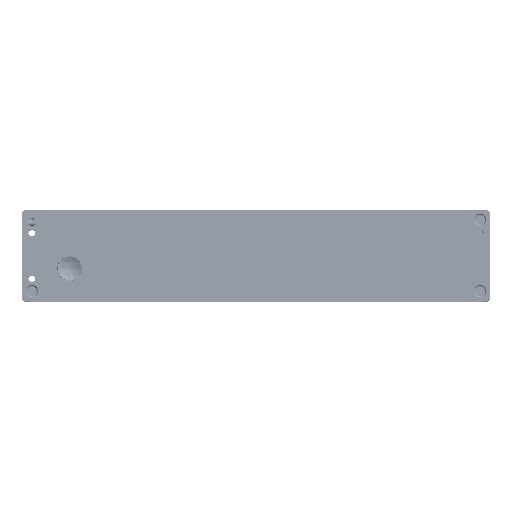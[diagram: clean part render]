
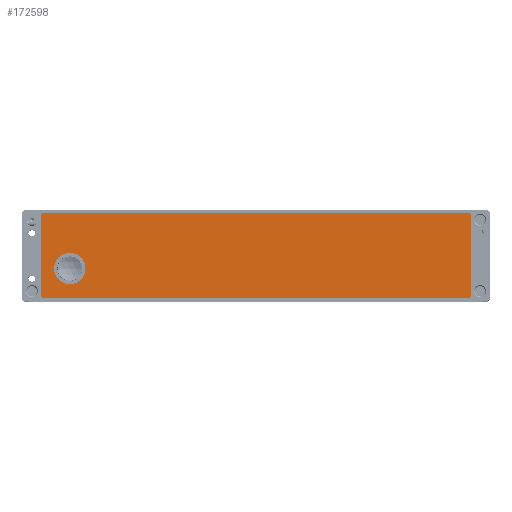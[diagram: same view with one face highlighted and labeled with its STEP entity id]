
A CAD part, top view. The second image highlights one B-rep face of the part: STEP entity #172598.
In plain terms, the highlighted planar face has unit normal (0, 0, 1).
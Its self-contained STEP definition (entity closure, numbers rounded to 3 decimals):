
#3450=FACE_BOUND('',#22379,.T.);
#5860=PLANE('',#184217);
#12950=FACE_OUTER_BOUND('',#22378,.T.);
#22378=EDGE_LOOP('',(#128431,#128432,#128433,#128434,#128435,#128436,#128437,
#128438));
#22379=EDGE_LOOP('',(#128439));
#35077=LINE('',#266050,#52199);
#35078=LINE('',#266054,#52200);
#35079=LINE('',#266058,#52201);
#35080=LINE('',#266061,#52202);
#52199=VECTOR('',#211698,10.);
#52200=VECTOR('',#211701,10.);
#52201=VECTOR('',#211704,10.);
#52202=VECTOR('',#211707,10.);
#65215=CIRCLE('',#184218,0.725);
#65216=CIRCLE('',#184219,0.725);
#65217=CIRCLE('',#184220,0.725);
#65218=CIRCLE('',#184221,0.725);
#65219=CIRCLE('',#184222,7.225);
#74568=VERTEX_POINT('',#266046);
#74569=VERTEX_POINT('',#266047);
#74570=VERTEX_POINT('',#266049);
#74571=VERTEX_POINT('',#266051);
#74572=VERTEX_POINT('',#266053);
#74573=VERTEX_POINT('',#266055);
#74574=VERTEX_POINT('',#266057);
#74575=VERTEX_POINT('',#266059);
#74576=VERTEX_POINT('',#266062);
#94148=EDGE_CURVE('',#74568,#74569,#65215,.T.);
#94149=EDGE_CURVE('',#74569,#74570,#35077,.T.);
#94150=EDGE_CURVE('',#74570,#74571,#65216,.T.);
#94151=EDGE_CURVE('',#74571,#74572,#35078,.T.);
#94152=EDGE_CURVE('',#74572,#74573,#65217,.T.);
#94153=EDGE_CURVE('',#74573,#74574,#35079,.T.);
#94154=EDGE_CURVE('',#74574,#74575,#65218,.T.);
#94155=EDGE_CURVE('',#74575,#74568,#35080,.T.);
#94156=EDGE_CURVE('',#74576,#74576,#65219,.T.);
#128431=ORIENTED_EDGE('',*,*,#94148,.T.);
#128432=ORIENTED_EDGE('',*,*,#94149,.T.);
#128433=ORIENTED_EDGE('',*,*,#94150,.T.);
#128434=ORIENTED_EDGE('',*,*,#94151,.T.);
#128435=ORIENTED_EDGE('',*,*,#94152,.T.);
#128436=ORIENTED_EDGE('',*,*,#94153,.T.);
#128437=ORIENTED_EDGE('',*,*,#94154,.T.);
#128438=ORIENTED_EDGE('',*,*,#94155,.T.);
#128439=ORIENTED_EDGE('',*,*,#94156,.T.);
#172598=ADVANCED_FACE('',(#12950,#3450),#5860,.T.);
#184217=AXIS2_PLACEMENT_3D('',#266045,#211694,#211695);
#184218=AXIS2_PLACEMENT_3D('',#266048,#211696,#211697);
#184219=AXIS2_PLACEMENT_3D('',#266052,#211699,#211700);
#184220=AXIS2_PLACEMENT_3D('',#266056,#211702,#211703);
#184221=AXIS2_PLACEMENT_3D('',#266060,#211705,#211706);
#184222=AXIS2_PLACEMENT_3D('',#266063,#211708,#211709);
#211694=DIRECTION('center_axis',(0.,0.,
1.));
#211695=DIRECTION('ref_axis',(1.,0.,0.));
#211696=DIRECTION('center_axis',(0.,0.,
1.));
#211697=DIRECTION('ref_axis',(-1.,0.,0.));
#211698=DIRECTION('',(-1.,0.,0.));
#211699=DIRECTION('center_axis',(0.,0.,
1.));
#211700=DIRECTION('ref_axis',(0.,-1.,0.));
#211701=DIRECTION('',(0.,-1.,0.));
#211702=DIRECTION('center_axis',(0.,0.,
1.));
#211703=DIRECTION('ref_axis',(1.,0.,0.));
#211704=DIRECTION('',(1.,0.,0.));
#211705=DIRECTION('center_axis',(0.,0.,
1.));
#211706=DIRECTION('ref_axis',(0.,1.,0.));
#211707=DIRECTION('',(0.,1.,0.));
#211708=DIRECTION('center_axis',(0.,0.,
-1.));
#211709=DIRECTION('ref_axis',(-1.,0.,0.));
#266045=CARTESIAN_POINT('Origin',(0.,71.075,
-0.15));
#266046=CARTESIAN_POINT('',(99.195,89.975,-0.15));
#266047=CARTESIAN_POINT('',(98.47,90.7,-0.15));
#266048=CARTESIAN_POINT('Origin',(98.47,89.975,-0.15));
#266049=CARTESIAN_POINT('',(-98.47,90.7,-0.15));
#266050=CARTESIAN_POINT('',(-98.47,90.7,-0.15));
#266051=CARTESIAN_POINT('',(-99.195,89.975,-0.15));
#266052=CARTESIAN_POINT('Origin',(-98.47,89.975,-0.15));
#266053=CARTESIAN_POINT('',(-99.195,52.175,-0.15));
#266054=CARTESIAN_POINT('',(-99.195,52.175,-0.15));
#266055=CARTESIAN_POINT('',(-98.47,51.45,-0.15));
#266056=CARTESIAN_POINT('Origin',(-98.47,52.175,-0.15));
#266057=CARTESIAN_POINT('',(98.47,51.45,-0.15));
#266058=CARTESIAN_POINT('',(98.47,51.45,-0.15));
#266059=CARTESIAN_POINT('',(99.195,52.175,-0.15));
#266060=CARTESIAN_POINT('Origin',(98.47,52.175,-0.15));
#266061=CARTESIAN_POINT('',(99.195,89.975,-0.15));
#266062=CARTESIAN_POINT('',(-78.775,65.075,-0.15));
#266063=CARTESIAN_POINT('Origin',(-86.,65.075,-0.15));
